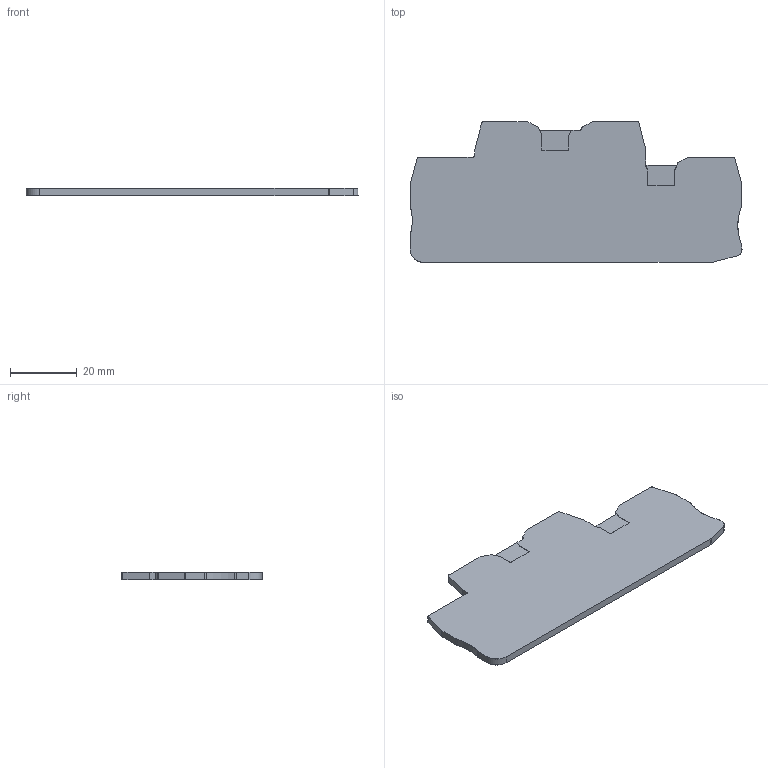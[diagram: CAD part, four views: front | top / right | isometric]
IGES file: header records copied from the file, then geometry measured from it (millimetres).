
Global section: file name: 3205187_d_qttcb1.5_select.igs; native system: OneSpace Designer 3D IGES; preprocessor: 11.50A  18-Jul-2002; date: 20040210.085024; units: millimetre
Bounding box: 99.55 x 42.15 x 2.2 mm (x, y, z)
Surface area: 7732.8 mm2 (no closed solid volume)
Topology: 0 solids, 0 shells, 75 faces, 532 edges, 532 vertices
Faces by surface type: bspline 75
